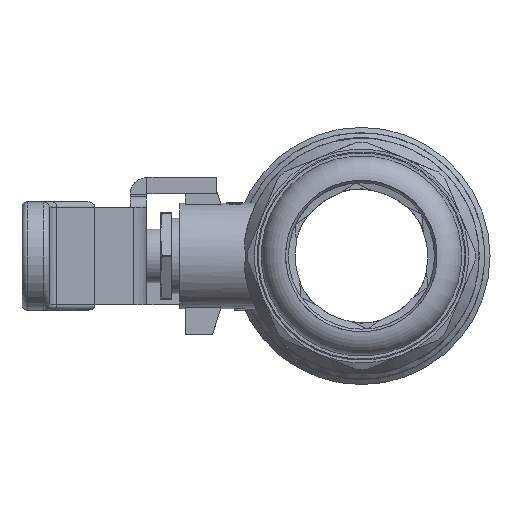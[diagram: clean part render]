
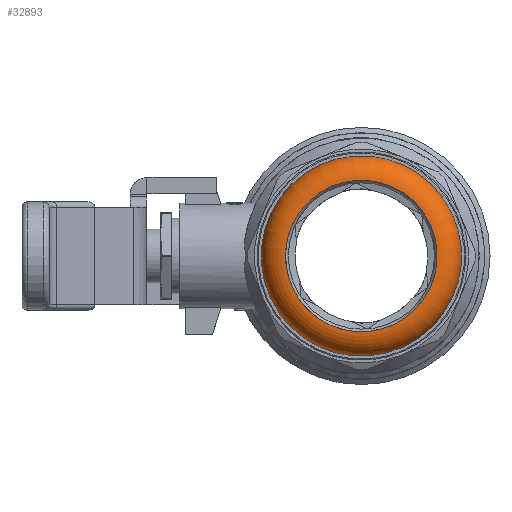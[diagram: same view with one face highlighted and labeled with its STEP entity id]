
A CAD part, left-side view. The second image highlights one B-rep face of the part: STEP entity #32893.
In plain terms, the highlighted toroidal (fillet/blend) face has major radius 14 mm and minor radius 4.5 mm.
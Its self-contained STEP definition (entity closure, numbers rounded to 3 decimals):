
#32862=CARTESIAN_POINT('',(-59.05,-14.719,10.181));
#32863=VERTEX_POINT('',#32862);
#32864=CARTESIAN_POINT('',(-59.05,0.0,0.0));
#32865=DIRECTION('',(1.,0.0,0.0));
#32866=DIRECTION('',(0.0,-0.822,0.569));
#32867=AXIS2_PLACEMENT_3D('',#32864,#32865,#32866);
#32868=CIRCLE('',#32867,17.897);
#32869=EDGE_CURVE('',#32863,#32863,#32868,.T.);
#32874=CARTESIAN_POINT('',(-61.3,0.,0.));
#32875=DIRECTION('',(1.0,0.0,0.0));
#32876=DIRECTION('',(0.0,0.0,-1.0));
#32877=AXIS2_PLACEMENT_3D('',#32874,#32875,#32876);
#32878=TOROIDAL_SURFACE('',#32877,14.,4.5);
#32879=CARTESIAN_POINT('',(-65.8,-11.514,7.964));
#32880=VERTEX_POINT('',#32879);
#32881=CARTESIAN_POINT('',(-65.8,0.,0.));
#32882=DIRECTION('',(1.,0.0,0.0));
#32883=DIRECTION('',(0.0,0.822,-0.569));
#32884=AXIS2_PLACEMENT_3D('',#32881,#32882,#32883);
#32885=CIRCLE('',#32884,14.);
#32886=EDGE_CURVE('',#32880,#32880,#32885,.T.);
#32887=ORIENTED_EDGE('',*,*,#32886,.T.);
#32888=EDGE_LOOP('',(#32887));
#32889=FACE_OUTER_BOUND('',#32888,.T.);
#32890=ORIENTED_EDGE('',*,*,#32869,.F.);
#32891=EDGE_LOOP('',(#32890));
#32892=FACE_BOUND('',#32891,.T.);
#32893=ADVANCED_FACE('',(#32889,#32892),#32878,.T.);
